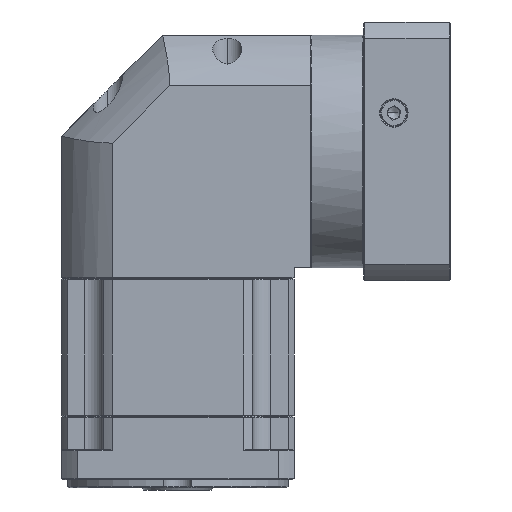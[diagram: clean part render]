
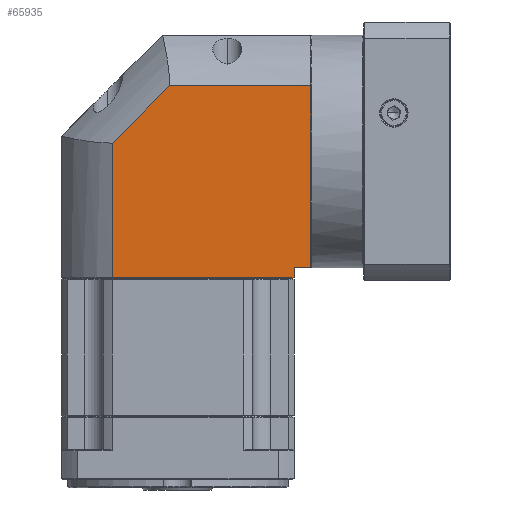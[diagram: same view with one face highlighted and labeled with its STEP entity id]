
A CAD part, front view. The second image highlights one B-rep face of the part: STEP entity #65935.
In plain terms, the highlighted planar face has unit normal (0, -1, 0).
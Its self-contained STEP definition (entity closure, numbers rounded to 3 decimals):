
#3176 = LINE ( 'NONE', #95196, #108386 ) ;
#5110 = DIRECTION ( 'NONE',  ( 0., 0., -1. ) ) ;
#5501 = LINE ( 'NONE', #81004, #101154 ) ;
#5827 = DIRECTION ( 'NONE',  ( 0., 1., 0. ) ) ;
#9062 = EDGE_CURVE ( 'NONE', #124923, #11428, #5501, .T. ) ;
#11428 = VERTEX_POINT ( 'NONE', #57821 ) ;
#13453 = VERTEX_POINT ( 'NONE', #31880 ) ;
#14222 = CARTESIAN_POINT ( 'NONE',  ( -15.068, 1.007, -55.723 ) ) ;
#14789 = PLANE ( 'NONE',  #78191 ) ;
#19687 = VERTEX_POINT ( 'NONE', #90642 ) ;
#24136 = DIRECTION ( 'NONE',  ( -1., 0., 0. ) ) ;
#26595 = CARTESIAN_POINT ( 'NONE',  ( 10.033, 1.007, 5.839 ) ) ;
#27537 = DIRECTION ( 'NONE',  ( -1., 0., 0. ) ) ;
#28686 = VECTOR ( 'NONE', #38691, 1000. ) ;
#29505 = EDGE_CURVE ( 'NONE', #19687, #124923, #114889, .T. ) ;
#30703 = ORIENTED_EDGE ( 'NONE', *, *, #55862, .F. ) ;
#31880 = CARTESIAN_POINT ( 'NONE',  ( 38.371, 1.007, 34.177 ) ) ;
#32373 = LINE ( 'NONE', #82531, #48308 ) ;
#34221 = CARTESIAN_POINT ( 'NONE',  ( 108.332, 1.007, -67.223 ) ) ;
#35799 = ORIENTED_EDGE ( 'NONE', *, *, #78156, .F. ) ;
#38636 = ORIENTED_EDGE ( 'NONE', *, *, #84605, .F. ) ;
#38691 = DIRECTION ( 'NONE',  ( 1., 0., 0. ) ) ;
#38981 = ORIENTED_EDGE ( 'NONE', *, *, #126125, .F. ) ;
#40076 = DIRECTION ( 'NONE',  ( 0., 0., -1. ) ) ;
#48308 = VECTOR ( 'NONE', #94112, 1000. ) ;
#55862 = EDGE_CURVE ( 'NONE', #11428, #81358, #3176, .T. ) ;
#57821 = CARTESIAN_POINT ( 'NONE',  ( 99.932, 1.007, -60.723 ) ) ;
#61473 = VECTOR ( 'NONE', #5110, 1000. ) ;
#63549 = LINE ( 'NONE', #90272, #28686 ) ;
#65935 = ADVANCED_FACE ( 'NONE', ( #67730 ), #14789, .F. ) ;
#67730 = FACE_OUTER_BOUND ( 'NONE', #75141, .T. ) ;
#69453 = ORIENTED_EDGE ( 'NONE', *, *, #29505, .F. ) ;
#71092 = LINE ( 'NONE', #34221, #61473 ) ;
#73964 = VERTEX_POINT ( 'NONE', #106029 ) ;
#75141 = EDGE_LOOP ( 'NONE', ( #96760, #69453, #38981, #102285, #35799, #38636, #30703 ) ) ;
#75328 = CARTESIAN_POINT ( 'NONE',  ( -15.068, 1.007, -67.223 ) ) ;
#78156 = EDGE_CURVE ( 'NONE', #73964, #13453, #122334, .T. ) ;
#78191 = AXIS2_PLACEMENT_3D ( 'NONE', #75328, #5827, #86036 ) ;
#81004 = CARTESIAN_POINT ( 'NONE',  ( 99.932, 1.007, -67.223 ) ) ;
#81358 = VERTEX_POINT ( 'NONE', #105880 ) ;
#82531 = CARTESIAN_POINT ( 'NONE',  ( 10.033, 1.007, -67.223 ) ) ;
#84605 = EDGE_CURVE ( 'NONE', #81358, #73964, #32373, .T. ) ;
#86036 = DIRECTION ( 'NONE',  ( 1., 0., 0. ) ) ;
#87805 = VECTOR ( 'NONE', #24136, 1000. ) ;
#90272 = CARTESIAN_POINT ( 'NONE',  ( -15.068, 1.007, 34.177 ) ) ;
#90642 = CARTESIAN_POINT ( 'NONE',  ( 108.332, 1.007, -55.723 ) ) ;
#90809 = EDGE_CURVE ( 'NONE', #13453, #104944, #63549, .T. ) ;
#94112 = DIRECTION ( 'NONE',  ( 0., 0., 1. ) ) ;
#95196 = CARTESIAN_POINT ( 'NONE',  ( -15.068, 1.007, -60.723 ) ) ;
#96760 = ORIENTED_EDGE ( 'NONE', *, *, #9062, .F. ) ;
#99079 = DIRECTION ( 'NONE',  ( 0.707, 0., 0.707 ) ) ;
#101154 = VECTOR ( 'NONE', #40076, 1000. ) ;
#102285 = ORIENTED_EDGE ( 'NONE', *, *, #90809, .F. ) ;
#103135 = VECTOR ( 'NONE', #99079, 1000. ) ;
#104944 = VERTEX_POINT ( 'NONE', #113113 ) ;
#105880 = CARTESIAN_POINT ( 'NONE',  ( 10.033, 1.007, -60.723 ) ) ;
#106029 = CARTESIAN_POINT ( 'NONE',  ( 10.033, 1.007, 5.839 ) ) ;
#107358 = CARTESIAN_POINT ( 'NONE',  ( 99.932, 1.007, -55.723 ) ) ;
#108386 = VECTOR ( 'NONE', #27537, 1000. ) ;
#113113 = CARTESIAN_POINT ( 'NONE',  ( 108.332, 1.007, 34.177 ) ) ;
#114889 = LINE ( 'NONE', #14222, #87805 ) ;
#122334 = LINE ( 'NONE', #26595, #103135 ) ;
#124923 = VERTEX_POINT ( 'NONE', #107358 ) ;
#126125 = EDGE_CURVE ( 'NONE', #104944, #19687, #71092, .T. ) ;
